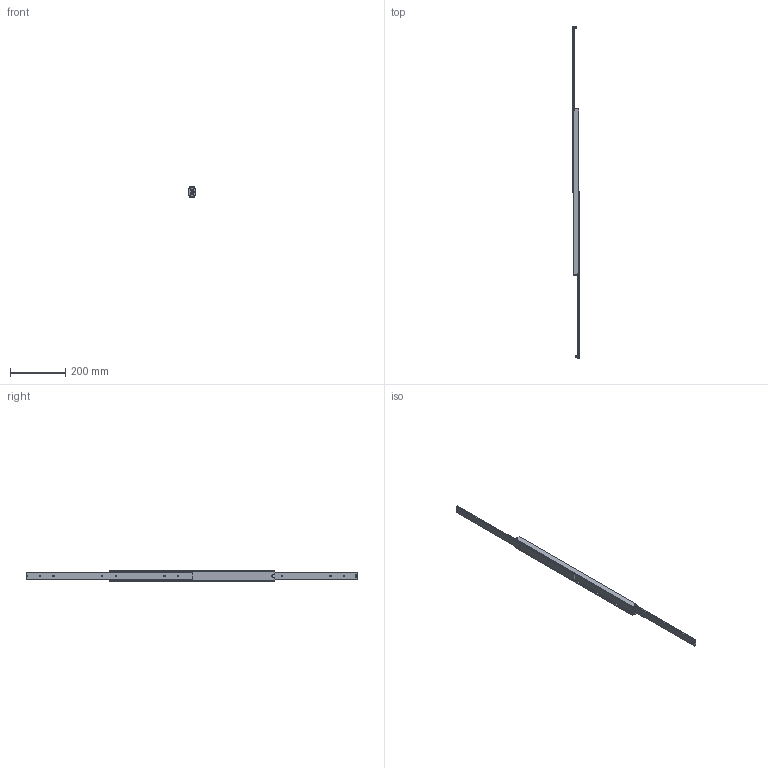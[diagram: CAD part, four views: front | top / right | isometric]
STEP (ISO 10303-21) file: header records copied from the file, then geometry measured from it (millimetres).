
FILE_DESCRIPTION(/* description */ (''),/* implementation_level */ '2;1');
FILE_NAME(/* name */ 'C:\Users\Miluxor\Desktop\Miluxor Schienen\Original Zeichnungen\Zeichnungen Schienen Komplett\MX-DTP40\MX-DTP40.060\MX-DTP40.060_ausgefahren.stp',/* time_stamp */ '2019-10-07T08:53:20+02:00',/* author */ ('Miluxor'),/* organization */ (''),/* preprocessor_version */ 'ST-DEVELOPER v16.13',/* originating_system */ 'AutoCAD Mechanical',/* authorisation */ '');
FILE_SCHEMA (('AUTOMOTIVE_DESIGN { 1 0 10303 214 3 1 1 }'));
Products named in the file (1): Product
Bounding box: 24 x 1200 x 40.5 mm (x, y, z)
Volume: 452421.5 mm3; surface area: 225195.9 mm2
Topology: 71 solids, 71 shells, 506 faces, 1292 edges, 856 vertices
Faces by surface type: plane 312, cylinder 72, bspline 68, sphere 40, cone 8, torus 6
Full cylindrical faces by diameter (mm): 4 x2, 6 x52, 10 x2
Entity records: 51969 total; most frequent: CARTESIAN_POINT 40533, ORIENTED_EDGE 2264, DIRECTION 2044, EDGE_CURVE 1132, VERTEX_POINT 846, LINE 738, VECTOR 738, EDGE_LOOP 688
